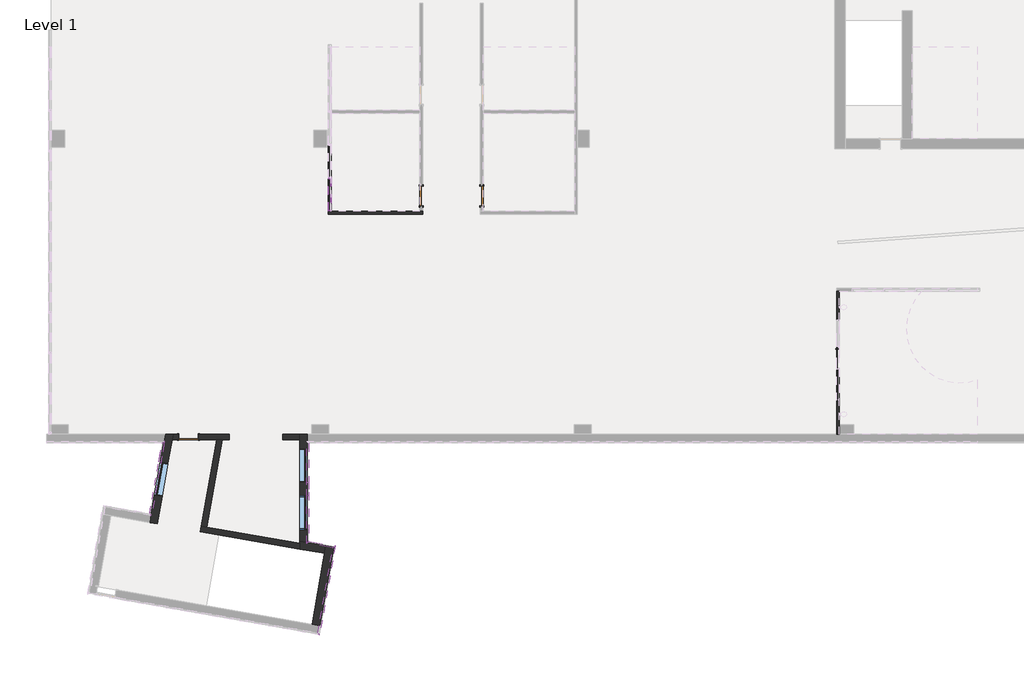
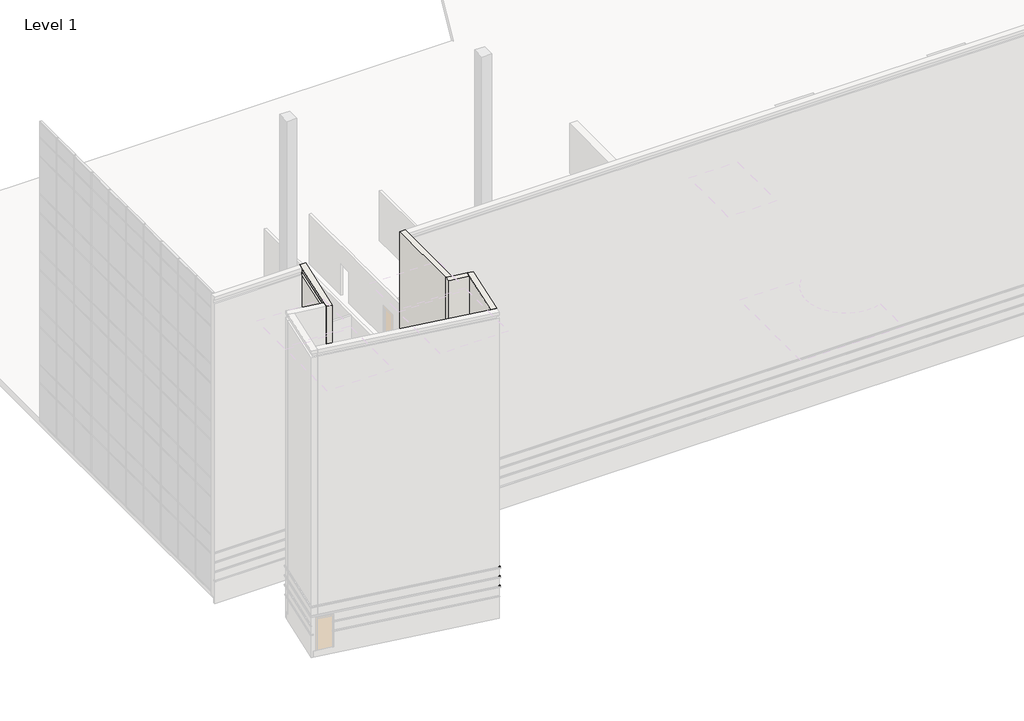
# One storey, part 5 of 23: 12 proxies, 10 members, 9 walls, 4 doors, 3 plates, 3 windows.
"""IFC4 building model written with IfcOpenShell, lengths in millimetres."""

from ifc_helpers import new_model, si_unit, frame, origin, origin_with_axes, place, context, project, spatial, polyline, outline, extrude, faceted_brep, transform, mapped, element, save
from components import curtain_wall_sgl_glass_curtain_wall_sgl_glass_ea362d66, door_ba235de4, door_82111de5, door_92889684, member_9597caa3, member_b2bde9e6, member_131a91bd, member_8e4b14e5, member_e7ed5742, member_a139046c, member_7e386bcc, member_b540e27d, system_panel_glazed_f771dc8d, system_panel_glazed_aacaee84, system_panel_solid_d74a2081, window_7a027cf8

model = new_model("IFC4")

# Units and contexts
model_context = context("Model", 3, world=origin())
ifc_project = project(units=[si_unit("LENGTHUNIT", "METRE", prefix="MILLI")], contexts=[model_context])

# Site, building, storey
site = spatial("IfcSite", under=ifc_project)
building = spatial("IfcBuilding", under=site)
storey = spatial("IfcBuildingStorey", under=building, Name="Level 1", Elevation=0.0)

# Proxies
placement = place(None, origin())
element("IfcBuildingElementProxy", 1, Name="Reveals", at=placement, inside=storey, context=model_context, shape_type="SweptSolid", body=[
    extrude(outline(polyline([(-64063.4106191, -30479.1249304), (-63972.7344453, -30495.1135863), (-64135.1020032, -31415.9457657), (-64209.7895211, -31309.2809359), (-64063.4106191, -30479.1249304)])), frame((0.0, 0.0, 1625.6), z_axis=(0.0, 0.0, 1.0), x_axis=(1.0, 0.0, 0.0)), (0.0, 0.0, 1.0), 67.7333333),
    extrude(outline(polyline([(-63652.5265095, -28148.8853492), (-63542.7957974, -28056.8103492), (-63708.0946225, -28994.2665708), (-63798.7707964, -28978.2779148), (-63652.5265095, -28148.8853492)])), frame((0.0, 0.0, 1625.6), z_axis=(0.0, 0.0, 1.0), x_axis=(1.0, 0.0, 0.0)), (0.0, 0.0, 1.0), 67.7333333),
])
element("IfcBuildingElementProxy", 2, Name="Reveals", at=placement, inside=storey, context=model_context, shape_type="SweptSolid", body=[
    extrude(outline(polyline([(-64063.4106191, -30479.1249304), (-63972.7344453, -30495.1135863), (-64135.1020032, -31415.9457657), (-64209.7895211, -31309.2809359), (-64063.4106191, -30479.1249304)])), frame((0.0, 0.0, 2235.2), z_axis=(0.0, 0.0, 1.0), x_axis=(1.0, 0.0, 0.0)), (0.0, 0.0, 1.0), 67.7333333),
    extrude(outline(polyline([(-63652.5265095, -28148.8853492), (-63542.7957974, -28056.8103492), (-63708.0946225, -28994.2665708), (-63798.7707964, -28978.2779148), (-63652.5265095, -28148.8853492)])), frame((0.0, 0.0, 2235.2), z_axis=(0.0, 0.0, 1.0), x_axis=(1.0, 0.0, 0.0)), (0.0, 0.0, 1.0), 67.7333333),
])
element("IfcBuildingElementProxy", 3, Name="Reveals", at=placement, inside=storey, context=model_context, shape_type="SweptSolid", body=[
    extrude(outline(polyline([(-63652.5265095, -28148.8853492), (-63542.7957974, -28056.8103492), (-64135.1020032, -31415.9457657), (-64209.7895211, -31309.2809359), (-63652.5265095, -28148.8853492)])), frame((0.0, 0.0, 2844.8), z_axis=(0.0, 0.0, 1.0), x_axis=(1.0, 0.0, 0.0)), (0.0, 0.0, 1.0), 67.7333333),
])
element("IfcBuildingElementProxy", 4, Name="Reveals", at=placement, inside=storey, context=model_context, shape_type="SweptSolid", body=[
    extrude(outline(polyline([(-56525.6460513, -36823.1362989), (-56600.3335692, -36716.4714691), (-55921.0913575, -32864.2974624), (-55814.4265276, -32789.6099445), (-56525.6460513, -36823.1362989)])), frame((0.0, 0.0, 1625.6), z_axis=(0.0, 0.0, 1.0), x_axis=(1.0, 0.0, 0.0)), (0.0, 0.0, 1.0), 67.7333333),
])
element("IfcBuildingElementProxy", 5, Name="Reveals", at=placement, inside=storey, context=model_context, shape_type="SweptSolid", body=[
    extrude(outline(polyline([(-56525.6460513, -36823.1362989), (-56600.3335692, -36716.4714691), (-55921.0913575, -32864.2974624), (-55814.4265276, -32789.6099445), (-56525.6460513, -36823.1362989)])), frame((0.0, 0.0, 2235.2), z_axis=(0.0, 0.0, 1.0), x_axis=(1.0, 0.0, 0.0)), (0.0, 0.0, 1.0), 67.7333333),
])
element("IfcBuildingElementProxy", 6, Name="Reveals", at=placement, inside=storey, context=model_context, shape_type="SweptSolid", body=[
    extrude(outline(polyline([(-56525.6460513, -36823.1362989), (-56600.3335692, -36716.4714691), (-55921.0913575, -32864.2974624), (-55814.4265276, -32789.6099445), (-56525.6460513, -36823.1362989)])), frame((0.0, 0.0, 2844.8), z_axis=(0.0, 0.0, 1.0), x_axis=(1.0, 0.0, 0.0)), (0.0, 0.0, 1.0), 67.7333333),
])
element("IfcBuildingElementProxy", 7, Name="Reveals", at=placement, inside=storey, context=model_context, shape_type="SweptSolid", body=[
    extrude(outline(polyline([(-55814.4265276, -32789.6099445), (-55921.0913575, -32864.2974624), (-57101.4875003, -32656.1617745), (-57009.4125003, -32578.9016759), (-55814.4265276, -32789.6099445)])), frame((0.0, 0.0, 1625.6), z_axis=(0.0, 0.0, 1.0), x_axis=(1.0, 0.0, 0.0)), (0.0, 0.0, 1.0), 67.7333333),
])
element("IfcBuildingElementProxy", 8, Name="Reveals", at=placement, inside=storey, context=model_context, shape_type="SweptSolid", body=[
    extrude(outline(polyline([(-55814.4265276, -32789.6099445), (-55921.0913575, -32864.2974624), (-57101.4875003, -32656.1617745), (-57009.4125003, -32578.9016759), (-55814.4265276, -32789.6099445)])), frame((0.0, 0.0, 2235.2), z_axis=(0.0, 0.0, 1.0), x_axis=(1.0, 0.0, 0.0)), (0.0, 0.0, 1.0), 67.7333333),
])
element("IfcBuildingElementProxy", 9, Name="Reveals", at=placement, inside=storey, context=model_context, shape_type="SweptSolid", body=[
    extrude(outline(polyline([(-55814.4265276, -32789.6099445), (-55921.0913575, -32864.2974624), (-57101.4875003, -32656.1617745), (-57009.4125003, -32578.9016759), (-55814.4265276, -32789.6099445)])), frame((0.0, 0.0, 2844.8), z_axis=(0.0, 0.0, 1.0), x_axis=(1.0, 0.0, 0.0)), (0.0, 0.0, 1.0), 67.7333333),
])
element("IfcBuildingElementProxy", 10, Name="Reveals", at=placement, inside=storey, context=model_context, shape_type="SweptSolid", body=[
    extrude(outline(polyline([(-57009.4125003, -28391.7728492), (-57101.4875003, -28391.7728492), (-57101.4875003, -28056.8103492), (-57009.4125003, -28148.8853492), (-57009.4125003, -28391.7728492)])), frame((0.0, 0.0, 1625.6), z_axis=(0.0, 0.0, 1.0), x_axis=(1.0, 0.0, 0.0)), (0.0, 0.0, 1.0), 67.7333333),
    extrude(outline(polyline([(-57009.4125003, -30525.3728492), (-57101.4875003, -30525.3728492), (-57101.4875003, -29915.7728492), (-57009.4125003, -29915.7728492), (-57009.4125003, -30525.3728492)])), frame((0.0, 0.0, 1625.6), z_axis=(0.0, 0.0, 1.0), x_axis=(1.0, 0.0, 0.0)), (0.0, 0.0, 1.0), 67.7333333),
    extrude(outline(polyline([(-57009.4125003, -32578.9016759), (-57101.4875003, -32656.1617745), (-57101.4875003, -32049.3728492), (-57009.4125003, -32049.3728492), (-57009.4125003, -32578.9016759)])), frame((0.0, 0.0, 1625.6), z_axis=(0.0, 0.0, 1.0), x_axis=(1.0, 0.0, 0.0)), (0.0, 0.0, 1.0), 67.7333333),
])
element("IfcBuildingElementProxy", 11, Name="Reveals", at=placement, inside=storey, context=model_context, shape_type="SweptSolid", body=[
    extrude(outline(polyline([(-57009.4125003, -28391.7728492), (-57101.4875003, -28391.7728492), (-57101.4875003, -28056.8103492), (-57009.4125003, -28148.8853492), (-57009.4125003, -28391.7728492)])), frame((0.0, 0.0, 2235.2), z_axis=(0.0, 0.0, 1.0), x_axis=(1.0, 0.0, 0.0)), (0.0, 0.0, 1.0), 67.7333333),
    extrude(outline(polyline([(-57009.4125003, -30525.3728492), (-57101.4875003, -30525.3728492), (-57101.4875003, -29915.7728492), (-57009.4125003, -29915.7728492), (-57009.4125003, -30525.3728492)])), frame((0.0, 0.0, 2235.2), z_axis=(0.0, 0.0, 1.0), x_axis=(1.0, 0.0, 0.0)), (0.0, 0.0, 1.0), 67.7333333),
    extrude(outline(polyline([(-57009.4125003, -32578.9016759), (-57101.4875003, -32656.1617745), (-57101.4875003, -32049.3728492), (-57009.4125003, -32049.3728492), (-57009.4125003, -32578.9016759)])), frame((0.0, 0.0, 2235.2), z_axis=(0.0, 0.0, 1.0), x_axis=(1.0, 0.0, 0.0)), (0.0, 0.0, 1.0), 67.7333333),
])
element("IfcBuildingElementProxy", 12, Name="Reveals", at=placement, inside=storey, context=model_context, shape_type="SweptSolid", body=[
    extrude(outline(polyline([(-57009.4125003, -32578.9016759), (-57101.4875003, -32656.1617745), (-57101.4875003, -28056.8103492), (-57009.4125003, -28148.8853492), (-57009.4125003, -32578.9016759)])), frame((0.0, 0.0, 2844.8), z_axis=(0.0, 0.0, 1.0), x_axis=(1.0, 0.0, 0.0)), (0.0, 0.0, 1.0), 67.7333333),
])

# Doors
curtain_wall_sgl_glass_curtain_wall_sgl_glass_shape = curtain_wall_sgl_glass_curtain_wall_sgl_glass_ea362d66(model_context)
element("IfcDoor", 13, ObjectType="Curtain Wall Sgl Glass : Curtain Wall Sgl Glass", at=placement, inside=storey, context=model_context, shape_type="MappedRepresentation", body=[
    mapped(curtain_wall_sgl_glass_curtain_wall_sgl_glass_shape, transform((-33067.7142212, -24273.7978492, -25.4), x_axis=(0.0, -1.0, 0.0), y_axis=(1.0, 0.0, 0.0), z_axis=(0.0, 0.0, 1.0))),
])
door_shape = door_ba235de4(model_context)
element("IfcDoor", 14, ObjectType="Single-Flush : 34\" x 80\"", at=placement, inside=storey, context=model_context, shape_type="MappedRepresentation", body=[
    mapped(door_shape, transform((-62457.7125003, -27856.7853492, 0.0), x_axis=(-1.0, 0.0, 0.0), y_axis=(0.0, -1.0, 0.0), z_axis=(0.0, 0.0, 1.0))),
])
door_2_shape = door_82111de5(model_context)
element("IfcDoor", 15, ObjectType="Single-Flush : 34\" x 80\"", at=placement, inside=storey, context=model_context, shape_type="MappedRepresentation", body=[
    mapped(door_2_shape, transform((-51923.5856498, -16957.0103492, 0.0), x_axis=(0.0, -1.0, 0.0), y_axis=(1.0, 0.0, 0.0), z_axis=(0.0, 0.0, 1.0))),
])
door_3_shape = door_92889684(model_context)
element("IfcDoor", 16, ObjectType="Single-Flush : 34\" x 80\"", at=placement, inside=storey, context=model_context, shape_type="MappedRepresentation", body=[
    mapped(door_3_shape, transform((-49194.8999355, -16957.0103492, 0.0), x_axis=(0.0, -1.0, 0.0), y_axis=(1.0, 0.0, 0.0), z_axis=(0.0, 0.0, 1.0))),
])

# Members
member_shape = member_9597caa3(model_context)
element("IfcMember", 17, ObjectType="Rectangular Mullion : 2.5\" x 5\" rectangular", at=placement, inside=storey, context=model_context, shape_type="MappedRepresentation", body=[
    mapped(member_shape, transform((-56063.7856498, -16145.6214603, 38.1), x_axis=(0.0, 1.0, 0.0), y_axis=(1.0, 0.0, 0.0), z_axis=(0.0, 0.0, -1.0))),
])
member_2_shape = member_b2bde9e6(model_context)
element("IfcMember", 18, ObjectType="Rectangular Mullion : 2.5\" x 5\" rectangular", at=placement, inside=storey, context=model_context, shape_type="MappedRepresentation", body=[
    mapped(member_2_shape, transform((-56063.7856498, -17655.5103492, 2413.0), x_axis=(0.0, -1.0, 0.0), y_axis=(1.0, 0.0, 0.0), z_axis=(0.0, 0.0, 1.0))),
])
member_3_shape = member_131a91bd(model_context)
element("IfcMember", 19, ObjectType="Rectangular Mullion : 2.5\" x 5\" rectangular", at=placement, inside=storey, context=model_context, shape_type="MappedRepresentation", body=[
    mapped(member_3_shape, transform((-56063.7856498, -16145.6214603, 3222.625), x_axis=(0.0, 0.0, 1.0), y_axis=(1.0, 0.0, 0.0), z_axis=(0.0, 1.0, 0.0))),
])
element("IfcMember", 20, ObjectType="Rectangular Mullion : 2.5\" x 5\" rectangular", at=placement, inside=storey, context=model_context, shape_type="MappedRepresentation", body=[
    mapped(member_3_shape, transform((-56063.7856498, -17655.5103492, -25.4), x_axis=(0.0, 0.0, -1.0), y_axis=(1.0, 0.0, 0.0), z_axis=(0.0, -1.0, 0.0))),
])
element("IfcMember", 21, ObjectType="Rectangular Mullion : 2.5\" x 5\" rectangular", at=placement, inside=storey, context=model_context, shape_type="MappedRepresentation", body=[
    mapped(member_3_shape, transform((-56063.7856498, -16145.6214603, -25.4), x_axis=(0.0, 0.0, -1.0), y_axis=(1.0, 0.0, 0.0), z_axis=(0.0, -1.0, 0.0))),
])
member_4_shape = member_8e4b14e5(model_context)
element("IfcMember", 22, ObjectType="Rectangular Mullion : 2.5\" x 5\" rectangular", at=placement, inside=storey, context=model_context, shape_type="MappedRepresentation", body=[
    mapped(member_4_shape, transform((-56063.7856498, -16145.6214603, 2413.0), x_axis=(0.0, 0.0, 1.0), y_axis=(1.0, 0.0, 0.0), z_axis=(0.0, 1.0, 0.0))),
])
member_5_shape = member_e7ed5742(model_context)
element("IfcMember", 23, ObjectType="Rectangular Mullion : 2.5\" x 5\" rectangular", at=placement, inside=storey, context=model_context, shape_type="MappedRepresentation", body=[
    mapped(member_5_shape, transform((-33067.7142212, -26204.1978492, 2349.5), x_axis=(0.0, -1.0, 0.0), y_axis=(1.0, 0.0, 0.0), z_axis=(0.0, 0.0, 1.0))),
])
member_6_shape = member_a139046c(model_context)
element("IfcMember", 24, ObjectType="Rectangular Mullion : 2.5\" x 5\" rectangular", at=placement, inside=storey, context=model_context, shape_type="MappedRepresentation", body=[
    mapped(member_6_shape, transform((-33067.7142212, -26204.1978492, -25.4), x_axis=(0.0, 0.0, -1.0), y_axis=(1.0, 0.0, 0.0), z_axis=(0.0, -1.0, 0.0))),
])
member_7_shape = member_7e386bcc(model_context)
element("IfcMember", 25, ObjectType="Rectangular Mullion : 2.5\" x 5\" rectangular", at=placement, inside=storey, context=model_context, shape_type="MappedRepresentation", body=[
    mapped(member_7_shape, transform((-56063.7856498, -16145.6214603, 2444.75), x_axis=(0.0, 1.0, 0.0), y_axis=(1.0, 0.0, 0.0), z_axis=(0.0, 0.0, -1.0))),
])
member_8_shape = member_b540e27d(model_context)
element("IfcMember", 26, ObjectType="Rectangular Mullion : 2.5\" x 5\" rectangular", at=placement, inside=storey, context=model_context, shape_type="MappedRepresentation", body=[
    mapped(member_8_shape, transform((-56063.7856498, -17655.5103492, 3159.125), x_axis=(0.0, -1.0, 0.0), y_axis=(1.0, 0.0, 0.0), z_axis=(0.0, 0.0, 1.0))),
])

# Plates
system_panel_glazed_shape = system_panel_glazed_f771dc8d(model_context)
element("IfcPlate", 27, ObjectType="System Panel : Glazed", at=placement, inside=storey, context=model_context, shape_type="MappedRepresentation", body=[
    mapped(system_panel_glazed_shape, transform((-56063.7856498, -16884.6909048, 38.1), x_axis=(0.0, 1.0, 0.0), y_axis=(-1.0, 0.0, 0.0), z_axis=(0.0, 0.0, 1.0))),
])
system_panel_glazed_2_shape = system_panel_glazed_aacaee84(model_context)
element("IfcPlate", 28, ObjectType="System Panel : Glazed", at=placement, inside=storey, context=model_context, shape_type="MappedRepresentation", body=[
    mapped(system_panel_glazed_2_shape, transform((-33067.7142212, -25477.1228492, 38.1), x_axis=(0.0, 1.0, 0.0), y_axis=(-1.0, 0.0, 0.0), z_axis=(0.0, 0.0, 1.0))),
])
system_panel_solid_shape = system_panel_solid_d74a2081(model_context)
element("IfcPlate", 29, ObjectType="System Panel : Solid", at=placement, inside=storey, context=model_context, shape_type="MappedRepresentation", body=[
    mapped(system_panel_solid_shape, transform((-56063.7856498, -16884.6909048, 2444.75), x_axis=(0.0, 1.0, 0.0), y_axis=(-1.0, 0.0, 0.0), z_axis=(0.0, 0.0, 1.0))),
])

# Walls
element("IfcWall", 30, ObjectType="Core-shaft 10\" Concrete", at=placement, inside=storey, context=model_context, shape_type="Brep", body=[
    faceted_brep([(-62889.5125003, -27729.7853492, 2032.0), (-62889.5125003, -27729.7853492, 0.0), (-63153.0625788, -27729.7853492, 0.0), (-63153.0625788, -27729.7853492, 3222.625), (-57428.5125003, -27729.7853492, 3222.625), (-57428.5125003, -27729.7853492, 0.0), (-58182.8685961, -27729.7853492, 0.0), (-58182.8685961, -27729.7853492, 2438.4), (-60621.2685961, -27729.7853492, 2438.4), (-60621.2685961, -27729.7853492, 0.0), (-62025.9125003, -27729.7853492, 0.0), (-62025.9125003, -27729.7853492, 2032.0), (-63197.8496319, -27983.7853492, 0.0), (-62889.5125003, -27983.7853492, 0.0), (-62889.5125003, -27983.7853492, 2032.0), (-62025.9125003, -27983.7853492, 2032.0), (-62025.9125003, -27983.7853492, 0.0), (-61184.4744387, -27983.7853492, 0.0), (-60926.5560793, -27983.7853492, 0.0), (-60621.2685961, -27983.7853492, 0.0), (-60621.2685961, -27983.7853492, 2438.4), (-58182.8685961, -27983.7853492, 2438.4), (-58182.8685961, -27983.7853492, 0.0), (-57428.5125003, -27983.7853492, 0.0), (-57428.5125003, -27983.7853492, 3222.625), (-60926.5560793, -27983.7853492, 3222.625), (-61184.4744387, -27983.7853492, 3222.625), (-63197.8496319, -27983.7853492, 3222.625), (-63155.3019315, -27742.4853492, 3222.625), (-57428.5125003, -27742.4853492, 3222.625)], [[[0, 1, 2, 3, 4, 5, 6, 7, 8, 9, 10, 11]], [[12, 13, 14, 15, 16, 17, 18, 19, 20, 21, 22, 23, 24, 25, 26, 27]], [[5, 23, 22, 6]], [[10, 9, 19, 18, 17, 16]], [[2, 1, 13, 12]], [[3, 2, 12, 27, 28]], [[5, 4, 29, 24, 23]], [[14, 13, 1, 0]], [[15, 14, 0, 11]], [[16, 15, 11, 10]], [[7, 21, 20, 8]], [[21, 7, 6, 22]], [[8, 20, 19, 9]], [[4, 3, 28, 27, 26, 25, 24, 29]]]),
])
element("IfcWall", 31, ObjectType="Core-shaft 10\" Concrete", at=placement, inside=storey, context=model_context, shape_type="Brep", body=[
    faceted_brep([(-61917.1680405, -32139.0972525, 0.0), (-57428.5125003, -32930.5683313, 0.0), (-57428.5125003, -32930.5683313, 3222.625), (-61917.1680405, -32139.0972525, 3222.625), (-61873.0614034, -31888.9560832, 0.0), (-61873.0614034, -31888.9560832, 3222.625), (-61622.9202341, -31933.0627204, 3222.625), (-57428.5125003, -32672.6499719, 3222.625), (-57428.5125003, -32672.6499719, 0.0), (-61622.9202341, -31933.0627204, 0.0), (-61914.9627086, -32126.590194, 3222.625), (-57428.5125003, -32917.6724134, 3222.625), (-61087.9334678, -32272.417763, 3222.625)], [[[0, 1, 2, 3]], [[4, 5, 6, 7, 8, 9]], [[1, 0, 4, 9, 8]], [[0, 3, 10, 5, 4]], [[2, 1, 8, 7, 11]], [[3, 2, 11, 12, 10]], [[11, 7, 6, 5, 10, 12]]]),
])
element("IfcWall", 32, ObjectType="Core-shaft 10\" Concrete", at=placement, inside=storey, context=model_context, shape_type="SweptSolid", body=[
    extrude(outline(polyline([(-60926.5560793, -27983.7853492), (-61622.9202341, -31933.0627204), (-61873.0614034, -31888.9560832), (-61184.4744387, -27983.7853492), (-60926.5560793, -27983.7853492)])), origin_with_axes(), (0.0, 0.0, 1.0), 3222.625),
])
element("IfcWall", 33, ObjectType="Exterior - Brick and CMU on MTL. Stud", at=placement, inside=storey, context=model_context, shape_type="Brep", body=[
    faceted_brep([(-64216.9034154, -31733.5918574, 19304.0), (-64155.7054564, -31386.5209851, 19304.0), (-63573.0663387, -28082.2103492, 19304.0), (-63510.9243025, -27729.7853492, 19304.0), (-63510.9243025, -27729.7853492, 3657.6), (-63513.1636551, -27742.4853492, 3657.6), (-63513.1636551, -27742.4853492, 3222.625), (-63510.9243025, -27729.7853492, 3222.625), (-63510.9243025, -27729.7853492, 0.0), (-63556.8310319, -27990.1353492, 0.0), (-63556.8310319, -27990.1353492, -406.4), (-63573.0663387, -28082.2103492, -406.4), (-64155.7054564, -31386.5209851, -406.4), (-64171.6941124, -31477.1971589, -406.4), (-64171.6941124, -31477.1971589, 0.0), (-64216.9034154, -31733.5918574, 0.0), (-64216.9034154, -31733.5918574, 3222.625), (-64214.6980836, -31721.084799, 3222.625), (-64214.6980836, -31721.084799, 3657.6), (-64216.9034154, -31733.5918574, 3657.6), (-63997.7485622, -30490.7029226, 914.4), (-63733.1087394, -28989.855907, 914.4), (-63733.1087394, -28989.855907, 1016.0), (-63573.0663387, -28082.2103492, 1016.0), (-63556.8310319, -27990.1353492, 1016.0), (-63556.8310319, -27990.1353492, 1085.85), (-63573.0663387, -28082.2103492, 1085.85), (-63733.1087394, -28989.855907, 1085.85), (-63733.1087394, -28989.855907, 1625.6), (-63573.0663387, -28082.2103492, 1625.6), (-63568.5876334, -28056.8103492, 1625.6), (-63568.5876334, -28056.8103492, 1693.3333333), (-63573.0663387, -28082.2103492, 1693.3333333), (-63733.1087394, -28989.855907, 1693.3333333), (-63733.1087394, -28989.855907, 2235.2), (-63573.0663387, -28082.2103492, 2235.2), (-63568.5876334, -28056.8103492, 2235.2), (-63568.5876334, -28056.8103492, 2302.9333333), (-63573.0663387, -28082.2103492, 2302.9333333), (-63733.1087394, -28989.855907, 2302.9333333), (-63733.1087394, -28989.855907, 2286.0), (-63997.7485622, -30490.7029226, 2286.0), (-63997.7485622, -30490.7029226, 2302.9333333), (-64155.7054564, -31386.5209851, 2302.9333333), (-64160.1161201, -31411.535102, 2302.9333333), (-64160.1161201, -31411.535102, 2235.2), (-64155.7054564, -31386.5209851, 2235.2), (-63997.7485622, -30490.7029226, 2235.2), (-63997.7485622, -30490.7029226, 1693.3333333), (-64155.7054564, -31386.5209851, 1693.3333333), (-64160.1161201, -31411.535102, 1693.3333333), (-64160.1161201, -31411.535102, 1625.6), (-64155.7054564, -31386.5209851, 1625.6), (-63997.7485622, -30490.7029226, 1625.6), (-63997.7485622, -30490.7029226, 1085.85), (-64155.7054564, -31386.5209851, 1085.85), (-64171.6941124, -31477.1971589, 1085.85), (-64171.6941124, -31477.1971589, 1016.0), (-64155.7054564, -31386.5209851, 1016.0), (-63997.7485622, -30490.7029226, 1016.0), (-64160.1161201, -31411.535102, 2912.5333333), (-64160.1161201, -31411.535102, 2844.8), (-64155.7054564, -31386.5209851, 2844.8), (-63573.0663387, -28082.2103492, 2844.8), (-63568.5876334, -28056.8103492, 2844.8), (-63568.5876334, -28056.8103492, 2912.5333333), (-63573.0663387, -28082.2103492, 2912.5333333), (-64155.7054564, -31386.5209851, 2912.5333333), (-64171.6941124, -31477.1971589, 19100.8), (-64171.6941124, -31477.1971589, 18897.6), (-64155.7054564, -31386.5209851, 18897.6), (-63573.0663387, -28082.2103492, 18897.6), (-63556.8310319, -27990.1353492, 18897.6), (-63556.8310319, -27990.1353492, 19100.8), (-63573.0663387, -28082.2103492, 19100.8), (-64155.7054564, -31386.5209851, 19100.8), (-63153.0625788, -27729.7853492, 19304.0), (-63869.8325431, -31794.7898164, 19304.0), (-63869.8325431, -31794.7898164, 3657.6), (-63153.0625788, -27729.7853492, 3657.6), (-63869.8325431, -31794.7898164, 0.0), (-63197.8496319, -27983.7853492, 0.0), (-63153.0625788, -27729.7853492, 0.0), (-63153.0625788, -27729.7853492, 3222.625), (-63197.8496319, -27983.7853492, 3222.625), (-63869.8325431, -31794.7898164, 3222.625), (-63386.0378671, -29051.0538661, 2286.0), (-63386.0378671, -29051.0538661, 914.4), (-63650.6776898, -30551.9008816, 914.4), (-63650.6776898, -30551.9008816, 2286.0), (-63708.0946225, -28994.2665708, 2286.0), (-63708.0946225, -28994.2665708, 2235.2), (-63708.0946225, -28994.2665708, 1693.3333333), (-63708.0946225, -28994.2665708, 1625.6), (-63642.4325656, -29005.844563, 1085.85), (-63642.4325656, -29005.844563, 1016.0), (-63907.0723883, -30506.6915786, 1016.0), (-63907.0723883, -30506.6915786, 1085.85), (-63972.7344453, -30495.1135863, 1625.6), (-63972.7344453, -30495.1135863, 1693.3333333), (-63972.7344453, -30495.1135863, 2235.2), (-63972.7344453, -30495.1135863, 2286.0), (-64081.0179385, -31493.1858149, 0.0), (-63463.3356266, -27990.1353492, 0.0), (-64135.1020032, -31415.9457657, 1693.3333333), (-64135.1020032, -31415.9457657, 1625.6), (-63542.7957974, -28056.8103492, 1693.3333333), (-63542.7957974, -28056.8103492, 1625.6), (-63972.7344453, -30495.1135863, 2302.9333333), (-64135.1020032, -31415.9457657, 2302.9333333), (-64135.1020032, -31415.9457657, 2235.2), (-63542.7957974, -28056.8103492, 2302.9333333), (-63542.7957974, -28056.8103492, 2235.2), (-63708.0946225, -28994.2665708, 2302.9333333), (-63542.7957974, -28056.8103492, 2912.5333333), (-63542.7957974, -28056.8103492, 2844.8), (-64135.1020032, -31415.9457657, 2844.8), (-64135.1020032, -31415.9457657, 2912.5333333), (-64081.0179385, -31493.1858149, 1085.85), (-64081.0179385, -31493.1858149, 1016.0), (-63463.3356266, -27990.1353492, 1085.85), (-63463.3356266, -27990.1353492, 1016.0), (-63463.3356266, -27990.1353492, 19100.8), (-63463.3356266, -27990.1353492, 18897.6), (-64081.0179385, -31493.1858149, 18897.6), (-64081.0179385, -31493.1858149, 19100.8), (-64081.0179385, -31493.1858149, -406.4), (-63463.3356266, -27990.1353492, -406.4), (-63168.1978494, -27742.4853492, 3222.625), (-63880.1342697, -31780.0774261, 3222.625), (-63880.1342697, -31780.0774261, 3657.6), (-63168.1978494, -27742.4853492, 3657.6)], [[[0, 1, 2, 3, 4, 5, 6, 7, 8, 9, 10, 11, 12, 13, 14, 15, 16, 17, 18, 19], [20, 21, 22, 23, 24, 25, 26, 27, 28, 29, 30, 31, 32, 33, 34, 35, 36, 37, 38, 39, 40, 41, 42, 43, 44, 45, 46, 47, 48, 49, 50, 51, 52, 53, 54, 55, 56, 57, 58, 59], [60, 61, 62, 63, 64, 65, 66, 67], [68, 69, 70, 71, 72, 73, 74, 75]], [[76, 77, 78, 79]], [[80, 81, 82, 83, 84, 85], [86, 87, 88, 89]], [[3, 2, 1, 0, 77, 76]], [[77, 0, 19, 78]], [[15, 80, 85, 16]], [[87, 86, 90, 91, 34, 33, 92, 93, 28, 27, 94, 95, 22, 21]], [[88, 87, 21, 20]], [[89, 88, 20, 59, 96, 97, 54, 53, 98, 99, 48, 47, 100, 101]], [[86, 89, 101, 41, 40, 90]], [[82, 81, 80, 15, 14, 102, 103, 9, 8]], [[99, 104, 50, 49, 48]], [[105, 98, 53, 52, 51]], [[104, 99, 98, 105]], [[106, 107, 93, 92]], [[108, 42, 41, 101]], [[42, 108, 109, 44, 43]], [[110, 100, 47, 46, 45]], [[109, 108, 101, 100, 110]], [[111, 112, 91, 90, 113]], [[114, 115, 116, 117]], [[117, 116, 61, 60]], [[97, 118, 56, 55, 54]], [[119, 96, 59, 58, 57]], [[118, 97, 96, 119]], [[120, 121, 95, 94]], [[122, 123, 124, 125]], [[125, 124, 69, 68]], [[39, 113, 90, 40]], [[102, 126, 127, 103]], [[126, 13, 12, 11, 10, 127]], [[104, 105, 51, 50]], [[107, 106, 31, 30]], [[93, 107, 30, 29, 28]], [[106, 92, 33, 32, 31]], [[109, 110, 45, 44]], [[112, 111, 37, 36]], [[91, 112, 36, 35, 34]], [[113, 39, 38, 37, 111]], [[115, 114, 65, 64]], [[116, 115, 64, 63, 62, 61]], [[114, 117, 60, 67, 66, 65]], [[118, 119, 57, 56]], [[121, 120, 25, 24]], [[95, 121, 24, 23, 22]], [[120, 94, 27, 26, 25]], [[122, 125, 68, 75, 74, 73]], [[123, 122, 73, 72]], [[124, 123, 72, 71, 70, 69]], [[3, 76, 79, 4]], [[82, 8, 7, 83]], [[102, 14, 13, 126]], [[9, 103, 127, 10]], [[128, 129, 17, 16, 85, 84, 83, 7, 6]], [[130, 131, 5, 4, 79, 78, 19, 18]], [[129, 130, 18, 17]], [[129, 128, 131, 130]], [[131, 128, 6, 5]]]),
])
element("IfcWall", 34, ObjectType="Exterior - Brick and CMU on MTL. Stud", at=placement, inside=storey, context=model_context, shape_type="Brep", body=[
    faceted_brep([(-55891.6665768, -32843.6940092, 19304.0), (-56518.532157, -36398.8253773, 19304.0), (-56518.532157, -36398.8253773, 19100.8), (-55891.6665768, -32843.6940092, 19100.8), (-56518.532157, -36398.8253773, 1693.3333333), (-55891.6665768, -32843.6940092, 1693.3333333), (-55891.6665768, -32843.6940092, 2235.2), (-56518.532157, -36398.8253773, 2235.2), (-55891.6665768, -32843.6940092, 1625.6), (-56518.532157, -36398.8253773, 1625.6), (-56518.532157, -36398.8253773, 1085.85), (-55891.6665768, -32843.6940092, 1085.85), (-56518.532157, -36398.8253773, 2302.9333333), (-55891.6665768, -32843.6940092, 2302.9333333), (-55891.6665768, -32843.6940092, 2844.8), (-56518.532157, -36398.8253773, 2844.8), (-56518.532157, -36398.8253773, 2912.5333333), (-55891.6665768, -32843.6940092, 2912.5333333), (-55891.6665768, -32843.6940092, 18897.6), (-56518.532157, -36398.8253773, 18897.6), (-55891.6665768, -32843.6940092, -406.4), (-55891.6665768, -32843.6940092, 1016.0), (-56518.532157, -36398.8253773, 1016.0), (-56518.532157, -36398.8253773, 0.0), (-56563.74146, -36655.2200758, 0.0), (-56563.74146, -36655.2200758, -406.4), (-56238.7374492, -32782.4960501, 0.0), (-56299.9354082, -33129.5669225, 0.0), (-56865.6030293, -36337.6274183, 0.0), (-56865.6030293, -36337.6274183, 19304.0), (-56299.9354082, -33129.5669225, 19304.0), (-56238.7374492, -32782.4960501, 19304.0), (-56238.7374492, -32782.4960501, 19100.8), (-56254.7261051, -32873.172224, 19100.8), (-56254.7261051, -32873.172224, 18897.6), (-56238.7374492, -32782.4960501, 18897.6), (-56238.7374492, -32782.4960501, 2912.5333333), (-56243.1481129, -32807.5101671, 2912.5333333), (-56243.1481129, -32807.5101671, 2844.8), (-56238.7374492, -32782.4960501, 2844.8), (-56238.7374492, -32782.4960501, 2302.9333333), (-56243.1481129, -32807.5101671, 2302.9333333), (-56243.1481129, -32807.5101671, 2235.2), (-56238.7374492, -32782.4960501, 2235.2), (-56238.7374492, -32782.4960501, 1693.3333333), (-56243.1481129, -32807.5101671, 1693.3333333), (-56243.1481129, -32807.5101671, 1625.6), (-56238.7374492, -32782.4960501, 1625.6), (-56238.7374492, -32782.4960501, 1085.85), (-56254.7261051, -32873.172224, 1085.85), (-56254.7261051, -32873.172224, 1016.0), (-56238.7374492, -32782.4960501, 1016.0), (-56609.2083309, -36382.8367214, 0.0), (-56609.2083309, -36382.8367214, 1016.0), (-56609.2083309, -36382.8367214, 1085.85), (-56543.5462739, -36394.4147136, 1625.6), (-56543.5462739, -36394.4147136, 1693.3333333), (-56543.5462739, -36394.4147136, 2235.2), (-56543.5462739, -36394.4147136, 2302.9333333), (-56543.5462739, -36394.4147136, 2844.8), (-56543.5462739, -36394.4147136, 2912.5333333), (-56609.2083309, -36382.8367214, 18897.6), (-56609.2083309, -36382.8367214, 19100.8), (-55982.3427507, -32827.7053532, 0.0), (-55982.3427507, -32827.7053532, -406.4), (-55998.3314066, -32918.3815271, 0.0), (-55921.0913575, -32864.2974624, 1693.3333333), (-55921.0913575, -32864.2974624, 1625.6), (-55921.0913575, -32864.2974624, 2302.9333333), (-55921.0913575, -32864.2974624, 2235.2), (-55921.0913575, -32864.2974624, 2912.5333333), (-55921.0913575, -32864.2974624, 2844.8), (-55998.3314066, -32918.3815271, 1085.85), (-55998.3314066, -32918.3815271, 1016.0), (-55998.3314066, -32918.3815271, 18897.6), (-55998.3314066, -32918.3815271, 19100.8), (-55998.3314066, -32918.3815271, -406.4), (-56654.4176339, -36639.2314199, -406.4), (-56654.4176339, -36639.2314199, 0.0)], [[[0, 1, 2, 3]], [[4, 5, 6, 7]], [[8, 9, 10, 11]], [[12, 13, 14, 15]], [[16, 17, 18, 19]], [[20, 21, 22, 23, 24, 25]], [[26, 27, 28, 29, 30, 31, 32, 33, 34, 35, 36, 37, 38, 39, 40, 41, 42, 43, 44, 45, 46, 47, 48, 49, 50, 51]], [[1, 0, 31, 30, 29]], [[1, 29, 28, 52, 23, 22, 53, 54, 10, 9, 55, 56, 4, 7, 57, 58, 12, 15, 59, 60, 16, 19, 61, 62, 2]], [[31, 0, 3, 32]], [[5, 44, 43, 6]], [[47, 8, 11, 48]], [[13, 40, 39, 14]], [[17, 36, 35, 18]], [[63, 26, 51, 21, 20, 64]], [[28, 27, 26, 63, 65, 52]], [[45, 44, 5, 4, 56, 66]], [[47, 46, 67, 55, 9, 8]], [[67, 66, 56, 55]], [[66, 67, 46, 45]], [[41, 40, 13, 12, 58, 68]], [[43, 42, 69, 57, 7, 6]], [[69, 68, 58, 57]], [[68, 69, 42, 41]], [[37, 36, 17, 16, 60, 70]], [[39, 38, 71, 59, 15, 14]], [[71, 70, 60, 59]], [[70, 71, 38, 37]], [[49, 48, 11, 10, 54, 72]], [[51, 50, 73, 53, 22, 21]], [[73, 72, 54, 53]], [[72, 73, 50, 49]], [[34, 74, 61, 19, 18, 35]], [[62, 75, 33, 32, 3, 2]], [[74, 75, 62, 61]], [[75, 74, 34, 33]], [[52, 65, 63, 64, 76, 77, 78]], [[64, 20, 25, 77, 76]], [[24, 23, 52, 78]], [[77, 25, 24, 78]]]),
])
element("IfcWall", 35, ObjectType="Exterior - Brick and CMU on MTL. Stud", at=placement, inside=storey, context=model_context, shape_type="Brep", body=[
    faceted_brep([(-57428.5125003, -32572.7066077, 19304.0), (-57076.0875003, -32634.8486438, 19304.0), (-56238.7374492, -32782.4960501, 19304.0), (-56238.7374492, -32782.4960501, 19100.8), (-57076.0875003, -32634.8486438, 19100.8), (-57168.1625003, -32618.6133371, 19100.8), (-57168.1625003, -32618.6133371, 18897.6), (-57076.0875003, -32634.8486438, 18897.6), (-56238.7374492, -32782.4960501, 18897.6), (-56238.7374492, -32782.4960501, 2912.5333333), (-57076.0875003, -32634.8486438, 2912.5333333), (-57101.4875003, -32630.3699385, 2912.5333333), (-57101.4875003, -32630.3699385, 2844.8), (-57076.0875003, -32634.8486438, 2844.8), (-56238.7374492, -32782.4960501, 2844.8), (-56238.7374492, -32782.4960501, 2302.9333333), (-57076.0875003, -32634.8486438, 2302.9333333), (-57101.4875003, -32630.3699385, 2302.9333333), (-57101.4875003, -32630.3699385, 2235.2), (-57076.0875003, -32634.8486438, 2235.2), (-56238.7374492, -32782.4960501, 2235.2), (-56238.7374492, -32782.4960501, 1693.3333333), (-57076.0875003, -32634.8486438, 1693.3333333), (-57101.4875003, -32630.3699385, 1693.3333333), (-57101.4875003, -32630.3699385, 1625.6), (-57076.0875003, -32634.8486438, 1625.6), (-56238.7374492, -32782.4960501, 1625.6), (-56238.7374492, -32782.4960501, 1085.85), (-57076.0875003, -32634.8486438, 1085.85), (-57168.1625003, -32618.6133371, 1085.85), (-57168.1625003, -32618.6133371, 1016.0), (-57076.0875003, -32634.8486438, 1016.0), (-56238.7374492, -32782.4960501, 1016.0), (-56238.7374492, -32782.4960501, 0.0), (-55982.3427507, -32827.7053532, 0.0), (-55982.3427507, -32827.7053532, -406.4), (-57076.0875003, -32634.8486438, -406.4), (-57168.1625003, -32618.6133371, -406.4), (-57168.1625003, -32618.6133371, 0.0), (-57428.5125003, -32572.7066077, 0.0), (-57428.5125003, -32572.7066077, 3222.625), (-57415.8125003, -32574.9459603, 3222.625), (-57415.8125003, -32574.9459603, 3657.6), (-57428.5125003, -32572.7066077, 3657.6), (-57428.5125003, -32930.5683313, 0.0), (-56299.9354082, -33129.5669225, 0.0), (-56299.9354082, -33129.5669225, 19304.0), (-57428.5125003, -32930.5683313, 19304.0), (-56254.7261051, -32873.172224, 0.0), (-56254.7261051, -32873.172224, 1016.0), (-56254.7261051, -32873.172224, 1085.85), (-56243.1481129, -32807.5101671, 1625.6), (-56243.1481129, -32807.5101671, 1693.3333333), (-56243.1481129, -32807.5101671, 2235.2), (-56243.1481129, -32807.5101671, 2302.9333333), (-56243.1481129, -32807.5101671, 2844.8), (-56243.1481129, -32807.5101671, 2912.5333333), (-56254.7261051, -32873.172224, 18897.6), (-56254.7261051, -32873.172224, 19100.8), (-57428.5125003, -32672.6499719, 0.0), (-57168.1625003, -32712.1087424, 0.0), (-57101.4875003, -32656.1617745, 1693.3333333), (-57101.4875003, -32656.1617745, 1625.6), (-57101.4875003, -32656.1617745, 2302.9333333), (-57101.4875003, -32656.1617745, 2235.2), (-57101.4875003, -32656.1617745, 2912.5333333), (-57101.4875003, -32656.1617745, 2844.8), (-57168.1625003, -32712.1087424, 1085.85), (-57168.1625003, -32712.1087424, 1016.0), (-57168.1625003, -32712.1087424, 18897.6), (-57168.1625003, -32712.1087424, 19100.8), (-57168.1625003, -32712.1087424, -406.4), (-55998.3314066, -32918.3815271, -406.4), (-55998.3314066, -32918.3815271, 0.0), (-57428.5125003, -32917.6724134, 3657.6), (-57428.5125003, -32917.6724134, 3222.625), (-57428.5125003, -32672.6499719, 3222.625), (-57415.8125003, -32919.911766, 3222.625), (-57415.8125003, -32919.911766, 3657.6)], [[[0, 1, 2, 3, 4, 5, 6, 7, 8, 9, 10, 11, 12, 13, 14, 15, 16, 17, 18, 19, 20, 21, 22, 23, 24, 25, 26, 27, 28, 29, 30, 31, 32, 33, 34, 35, 36, 37, 38, 39, 40, 41, 42, 43]], [[44, 45, 46, 47]], [[2, 1, 0, 47, 46]], [[2, 46, 45, 48, 33, 32, 49, 50, 27, 26, 51, 52, 21, 20, 53, 54, 15, 14, 55, 56, 9, 8, 57, 58, 3]], [[45, 44, 59, 39, 38, 60, 48]], [[21, 52, 61, 23, 22]], [[51, 26, 25, 24, 62]], [[62, 61, 52, 51]], [[15, 54, 63, 17, 16]], [[53, 20, 19, 18, 64]], [[64, 63, 54, 53]], [[11, 10, 9, 56, 65]], [[14, 13, 12, 66, 55]], [[66, 65, 56, 55]], [[65, 66, 12, 11]], [[27, 50, 67, 29, 28]], [[49, 32, 31, 30, 68]], [[68, 67, 50, 49]], [[8, 7, 6, 69, 57]], [[4, 3, 58, 70, 5]], [[69, 70, 58, 57]], [[70, 69, 6, 5]], [[48, 60, 71, 72, 73]], [[71, 37, 36, 35, 72]], [[61, 62, 24, 23]], [[63, 64, 18, 17]], [[67, 68, 30, 29]], [[47, 0, 43, 74, 75, 76, 40, 39, 59, 44]], [[60, 38, 37, 71]], [[34, 33, 48, 73]], [[72, 35, 34, 73]], [[75, 77, 41, 40, 76]], [[42, 78, 74, 43]], [[77, 78, 42, 41]], [[78, 77, 75, 74]]]),
])
element("IfcWall", 36, ObjectType="Exterior - Brick and CMU on MTL. Stud", at=placement, inside=storey, context=model_context, shape_type="Brep", body=[
    faceted_brep([(-57076.0875003, -27729.7853492, 19304.0), (-57076.0875003, -28082.2103492, 19304.0), (-57076.0875003, -32634.8486438, 19304.0), (-57076.0875003, -32634.8486438, 19100.8), (-57076.0875003, -28082.2103492, 19100.8), (-57076.0875003, -27990.1353492, 19100.8), (-57076.0875003, -27990.1353492, 18897.6), (-57076.0875003, -28082.2103492, 18897.6), (-57076.0875003, -32634.8486438, 18897.6), (-57076.0875003, -32634.8486438, 2912.5333333), (-57076.0875003, -28082.2103492, 2912.5333333), (-57076.0875003, -28056.8103492, 2912.5333333), (-57076.0875003, -28056.8103492, 2844.8), (-57076.0875003, -28082.2103492, 2844.8), (-57076.0875003, -32634.8486438, 2844.8), (-57076.0875003, -32634.8486438, 2302.9333333), (-57076.0875003, -32049.3728492, 2302.9333333), (-57076.0875003, -32049.3728492, 2286.0), (-57076.0875003, -30525.3728492, 2286.0), (-57076.0875003, -30525.3728492, 2302.9333333), (-57076.0875003, -29915.7728492, 2302.9333333), (-57076.0875003, -29915.7728492, 2286.0), (-57076.0875003, -28391.7728492, 2286.0), (-57076.0875003, -28391.7728492, 2302.9333333), (-57076.0875003, -28082.2103492, 2302.9333333), (-57076.0875003, -28056.8103492, 2302.9333333), (-57076.0875003, -28056.8103492, 2235.2), (-57076.0875003, -28082.2103492, 2235.2), (-57076.0875003, -28391.7728492, 2235.2), (-57076.0875003, -28391.7728492, 1693.3333333), (-57076.0875003, -28082.2103492, 1693.3333333), (-57076.0875003, -28056.8103492, 1693.3333333), (-57076.0875003, -28056.8103492, 1625.6), (-57076.0875003, -28082.2103492, 1625.6), (-57076.0875003, -28391.7728492, 1625.6), (-57076.0875003, -28391.7728492, 1085.85), (-57076.0875003, -28082.2103492, 1085.85), (-57076.0875003, -27990.1353492, 1085.85), (-57076.0875003, -27990.1353492, 1016.0), (-57076.0875003, -28082.2103492, 1016.0), (-57076.0875003, -28391.7728492, 1016.0), (-57076.0875003, -28391.7728492, 914.4), (-57076.0875003, -29915.7728492, 914.4), (-57076.0875003, -29915.7728492, 1016.0), (-57076.0875003, -30525.3728492, 1016.0), (-57076.0875003, -30525.3728492, 914.4), (-57076.0875003, -32049.3728492, 914.4), (-57076.0875003, -32049.3728492, 1016.0), (-57076.0875003, -32634.8486438, 1016.0), (-57076.0875003, -32634.8486438, -406.4), (-57076.0875003, -28082.2103492, -406.4), (-57076.0875003, -27990.1353492, -406.4), (-57076.0875003, -27990.1353492, 0.0), (-57076.0875003, -27729.7853492, 0.0), (-57076.0875003, -27729.7853492, 3222.625), (-57076.0875003, -27735.220667, 3222.625), (-57076.0875003, -27735.220667, 3657.6), (-57076.0875003, -27729.7853492, 3657.6), (-57076.0875003, -30525.3728492, 1693.3333333), (-57076.0875003, -29915.7728492, 1693.3333333), (-57076.0875003, -29915.7728492, 2235.2), (-57076.0875003, -30525.3728492, 2235.2), (-57076.0875003, -29915.7728492, 1625.6), (-57076.0875003, -30525.3728492, 1625.6), (-57076.0875003, -30525.3728492, 1085.85), (-57076.0875003, -29915.7728492, 1085.85), (-57076.0875003, -32049.3728492, 1625.6), (-57076.0875003, -32634.8486438, 1625.6), (-57076.0875003, -32634.8486438, 1085.85), (-57076.0875003, -32049.3728492, 1085.85), (-57076.0875003, -32634.8486438, 1693.3333333), (-57076.0875003, -32049.3728492, 1693.3333333), (-57076.0875003, -32049.3728492, 2235.2), (-57076.0875003, -32634.8486438, 2235.2), (-57428.5125003, -32572.7066077, 19304.0), (-57428.5125003, -27729.7853492, 19304.0), (-57428.5125003, -27729.7853492, 3657.6), (-57428.5125003, -32572.7066077, 3657.6), (-57428.5125003, -27729.7853492, 0.0), (-57428.5125003, -27983.7853492, 0.0), (-57428.5125003, -32572.7066077, 0.0), (-57428.5125003, -32572.7066077, 3222.625), (-57428.5125003, -27983.7853492, 3222.625), (-57428.5125003, -27729.7853492, 3222.625), (-57428.5125003, -32049.3728492, 2286.0), (-57428.5125003, -32049.3728492, 914.4), (-57428.5125003, -30525.3728492, 914.4), (-57428.5125003, -30525.3728492, 2286.0), (-57428.5125003, -29915.7728492, 2286.0), (-57428.5125003, -29915.7728492, 914.4), (-57428.5125003, -28391.7728492, 914.4), (-57428.5125003, -28391.7728492, 2286.0), (-57101.4875003, -32049.3728492, 2286.0), (-57101.4875003, -32049.3728492, 2235.2), (-57101.4875003, -32049.3728492, 1693.3333333), (-57101.4875003, -32049.3728492, 1625.6), (-57168.1625003, -32049.3728492, 1085.85), (-57168.1625003, -32049.3728492, 1016.0), (-57168.1625003, -30525.3728492, 1016.0), (-57168.1625003, -30525.3728492, 1085.85), (-57101.4875003, -30525.3728492, 1625.6), (-57101.4875003, -30525.3728492, 1693.3333333), (-57101.4875003, -30525.3728492, 2235.2), (-57101.4875003, -30525.3728492, 2286.0), (-57101.4875003, -29915.7728492, 2286.0), (-57101.4875003, -29915.7728492, 2235.2), (-57101.4875003, -29915.7728492, 1693.3333333), (-57101.4875003, -29915.7728492, 1625.6), (-57168.1625003, -29915.7728492, 1085.85), (-57168.1625003, -29915.7728492, 1016.0), (-57168.1625003, -28391.7728492, 1016.0), (-57168.1625003, -28391.7728492, 1085.85), (-57101.4875003, -28391.7728492, 1625.6), (-57101.4875003, -28391.7728492, 1693.3333333), (-57101.4875003, -28391.7728492, 2235.2), (-57101.4875003, -28391.7728492, 2286.0), (-57168.1625003, -27990.1353492, 0.0), (-57168.1625003, -32618.6133371, 0.0), (-57101.4875003, -28056.8103492, 1693.3333333), (-57101.4875003, -28056.8103492, 1625.6), (-57101.4875003, -32630.3699385, 1693.3333333), (-57101.4875003, -32630.3699385, 1625.6), (-57101.4875003, -28056.8103492, 2302.9333333), (-57101.4875003, -28391.7728492, 2302.9333333), (-57101.4875003, -28056.8103492, 2235.2), (-57101.4875003, -30525.3728492, 2302.9333333), (-57101.4875003, -29915.7728492, 2302.9333333), (-57101.4875003, -32049.3728492, 2302.9333333), (-57101.4875003, -32630.3699385, 2302.9333333), (-57101.4875003, -32630.3699385, 2235.2), (-57101.4875003, -28056.8103492, 2912.5333333), (-57101.4875003, -32630.3699385, 2912.5333333), (-57101.4875003, -28056.8103492, 2844.8), (-57101.4875003, -32630.3699385, 2844.8), (-57168.1625003, -27990.1353492, 1085.85), (-57168.1625003, -27990.1353492, 1016.0), (-57168.1625003, -32618.6133371, 1016.0), (-57168.1625003, -32618.6133371, 1085.85), (-57168.1625003, -27990.1353492, 18897.6), (-57168.1625003, -32618.6133371, 18897.6), (-57168.1625003, -32618.6133371, 19100.8), (-57168.1625003, -27990.1353492, 19100.8), (-57168.1625003, -32618.6133371, -406.4), (-57168.1625003, -27990.1353492, -406.4), (-57415.8125003, -32574.9459603, 3657.6), (-57415.8125003, -32574.9459603, 3222.625), (-57415.8125003, -27735.220667, 3222.625), (-57415.8125003, -27735.220667, 3657.6)], [[[0, 1, 2, 3, 4, 5, 6, 7, 8, 9, 10, 11, 12, 13, 14, 15, 16, 17, 18, 19, 20, 21, 22, 23, 24, 25, 26, 27, 28, 29, 30, 31, 32, 33, 34, 35, 36, 37, 38, 39, 40, 41, 42, 43, 44, 45, 46, 47, 48, 49, 50, 51, 52, 53, 54, 55, 56, 57]], [[58, 59, 60, 61]], [[62, 63, 64, 65]], [[66, 67, 68, 69]], [[70, 71, 72, 73]], [[74, 75, 76, 77]], [[78, 79, 80, 81, 82, 83], [84, 85, 86, 87], [88, 89, 90, 91]], [[2, 1, 0, 75, 74]], [[85, 84, 92, 93, 72, 71, 94, 95, 66, 69, 96, 97, 47, 46]], [[86, 85, 46, 45]], [[87, 86, 45, 44, 98, 99, 64, 63, 100, 101, 58, 61, 102, 103]], [[84, 87, 103, 18, 17, 92]], [[89, 88, 104, 105, 60, 59, 106, 107, 62, 65, 108, 109, 43, 42]], [[90, 89, 42, 41]], [[91, 90, 41, 40, 110, 111, 35, 34, 112, 113, 29, 28, 114, 115]], [[88, 91, 115, 22, 21, 104]], [[80, 79, 78, 53, 52, 116, 117]], [[118, 113, 112, 119]], [[58, 101, 106, 59]], [[100, 63, 62, 107]], [[101, 100, 107, 106]], [[95, 94, 120, 121]], [[122, 123, 115, 114, 124]], [[103, 125, 19, 18]], [[126, 104, 21, 20]], [[19, 125, 126, 20]], [[102, 61, 60, 105]], [[125, 103, 102, 105, 104, 126]], [[16, 127, 92, 17]], [[92, 127, 128, 129, 93]], [[130, 11, 10, 9, 131]], [[12, 132, 133, 14, 13]], [[132, 130, 131, 133]], [[134, 111, 110, 135]], [[64, 99, 108, 65]], [[98, 44, 43, 109]], [[99, 98, 109, 108]], [[136, 97, 96, 137]], [[6, 138, 139, 8, 7]], [[140, 141, 5, 4, 3]], [[138, 141, 140, 139]], [[142, 117, 116, 143]], [[49, 142, 143, 51, 50]], [[119, 112, 34, 33, 32]], [[113, 118, 31, 30, 29]], [[118, 119, 32, 31]], [[115, 123, 23, 22]], [[124, 114, 28, 27, 26]], [[123, 122, 25, 24, 23]], [[122, 124, 26, 25]], [[130, 132, 12, 11]], [[135, 110, 40, 39, 38]], [[111, 134, 37, 36, 35]], [[134, 135, 38, 37]], [[141, 138, 6, 5]], [[95, 121, 67, 66]], [[120, 94, 71, 70]], [[93, 129, 73, 72]], [[127, 16, 15, 128]], [[97, 136, 48, 47]], [[137, 96, 69, 68]], [[75, 0, 57, 76]], [[53, 78, 83, 54]], [[2, 74, 77, 144, 145, 81, 80, 117, 142, 49, 48, 136, 137, 68, 67, 121, 120, 70, 73, 129, 128, 15, 14, 133, 131, 9, 8, 139, 140, 3]], [[116, 52, 51, 143]], [[146, 55, 54, 83, 82, 81, 145]], [[147, 144, 77, 76, 57, 56]], [[146, 147, 56, 55]], [[147, 146, 145, 144]]]),
])
element("IfcWall", 37, ObjectType="Interior - Generic - 5\"", at=placement, inside=storey, context=model_context, shape_type="SweptSolid", body=[
    extrude(outline(polyline([(-21262.3103492, 3222.625), (-21262.3103492, 0.0), (-22546.5978492, 0.0), (-22546.5978492, 2413.0), (-26204.1978492, 2413.0), (-26204.1978492, 0.0), (-27729.7853492, 0.0), (-27729.7853492, 3222.625), (-21262.3103492, 3222.625)])), frame((-33131.2142212, 0.0, 0.0), z_axis=(1.0, 0.0, 0.0), x_axis=(0.0, 1.0, 0.0)), (0.0, 0.0, 1.0), 127.0),
])
element("IfcWall", 38, ObjectType="Interior - Generic - 5\"", at=placement, inside=storey, context=model_context, shape_type="Brep", body=[
    faceted_brep([(-56127.2856498, -17782.5103492, 0.0), (-51860.0856498, -17782.5103492, 0.0), (-51860.0856498, -17782.5103492, 3222.625), (-56127.2856498, -17782.5103492, 3222.625), (-56127.2856498, -17655.5103492, 0.0), (-56127.2856498, -17655.5103492, 3222.625), (-51987.0856498, -17655.5103492, 3222.625), (-51860.0856498, -17655.5103492, 3222.625), (-51860.0856498, -17655.5103492, 0.0), (-51987.0856498, -17655.5103492, 0.0)], [[[0, 1, 2, 3]], [[4, 5, 6, 7, 8, 9]], [[1, 0, 4, 9, 8]], [[0, 3, 5, 4]], [[2, 1, 8, 7]], [[3, 2, 7, 6, 5]]]),
])

# Windows
window_shape = window_7a027cf8(model_context)
element("IfcWindow", 39, ObjectType="Fixed : 60\" x 54\"", at=placement, inside=storey, context=model_context, shape_type="MappedRepresentation", body=[
    mapped(window_shape, transform((-63685.2772191, -29733.357219, -914.4), x_axis=(0.17364817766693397, 0.9848077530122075, 0.0), y_axis=(-0.9848077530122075, 0.17364817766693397, 0.0), z_axis=(0.0, 0.0, 1.0))),
])
element("IfcWindow", 40, ObjectType="Fixed : 60\" x 54\"", at=placement, inside=storey, context=model_context, shape_type="MappedRepresentation", body=[
    mapped(window_shape, transform((-57252.3000003, -31325.4728492, -914.4), x_axis=(0.0, -1.0, 0.0), y_axis=(1.0, 0.0, 0.0), z_axis=(0.0, 0.0, 1.0))),
])
element("IfcWindow", 41, ObjectType="Fixed : 60\" x 54\"", at=placement, inside=storey, context=model_context, shape_type="MappedRepresentation", body=[
    mapped(window_shape, transform((-57252.3000003, -29191.8728492, -914.4), x_axis=(0.0, -1.0, 0.0), y_axis=(1.0, 0.0, 0.0), z_axis=(0.0, 0.0, 1.0))),
])

save(model, "model.ifc")
